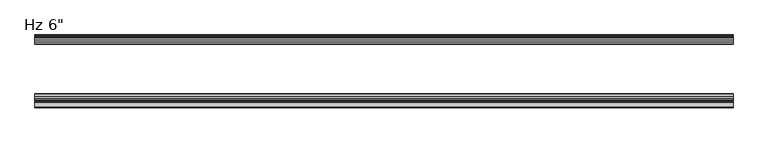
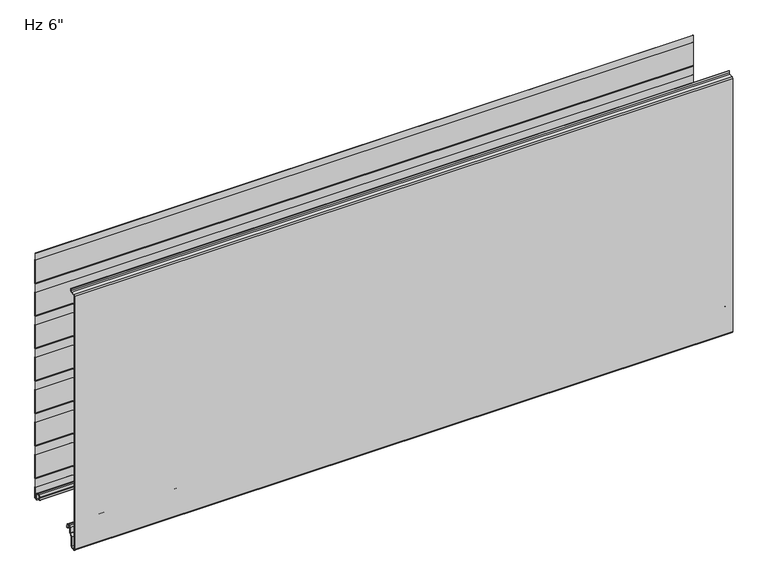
"""IFC4 building model written with IfcOpenShell, lengths in millimetres: plate geometry."""

from ifc_helpers import new_model, si_unit, point, frame, frame_2d, origin, place, context, project, spatial, polyline, circle_curve, trimmed, segment, composite_curve, outline, extrude, source, transform, mapped, element, save
from ifc_brep_helpers import plane_surface, cylinder_surface, revolved_surface, advanced_brep


def plate_c37062f1(model_context):
    return source(origin(), model_context, "Body", "SolidModel", [
        advanced_brep(
        [(-730.0, -17.0015368, 2.0313088), (-730.0, -18.00154, 1.0313116), (-730.0, -19.0015313, 2.0313088), (-730.0, -19.0015314, 6.0315125), (-730.0, -18.0015368, 6.0315125), (-730.0, -18.0015368, 8.7237223), (-730.0, -14.7015411, 12.023718), (-730.0, -10.3015499, 12.023718), (-730.0, -7.0015544, 8.7237225), (-730.0, -7.0015544, -1.6962564), (-730.0, -5.2315602, -3.4662506), (-730.0, -1.0000126, -3.4662506), (-730.0, -1.0000126, 21.034026), (-730.0, -2.2002516, 22.4196686), (-730.0, -2.2002516, 41.7948349), (-730.0, -1.0000209, 43.1804679), (-730.0, -1.0000209, 97.2338833), (-730.0, -2.2002516, 98.6195162), (-730.0, -2.2002516, 117.9946825), (-730.0, -1.0000209, 119.3803155), (-730.0, -1.0000209, 173.4337309), (-730.0, -2.2002516, 174.8193638), (-730.0, -2.2002516, 194.1945301), (-730.0, -1.0000209, 195.5801631), (-730.0, -1.0000209, 249.6335785), (-730.0, -2.2002516, 251.0192114), (-730.0, -2.2002516, 270.3943777), (-730.0, -1.0000209, 271.7800107), (-730.0, -1.0000209, 325.8334261), (-730.0, -2.2002516, 327.219059), (-730.0, -2.2002516, 346.5942253), (-730.0, -1.0000209, 347.9798583), (-730.0, -1.0000209, 402.0332737), (-730.0, -2.2002516, 403.4189066), (-730.0, -2.2002516, 422.7940729), (-730.0, -1.0000209, 424.1797059), (-730.0, -1.0000209, 478.2331213), (-730.0, -2.2002516, 479.6187542), (-730.0, -2.2002516, 498.9939205), (-730.0, -1.0000209, 500.3795535), (-730.0, -1.0000209, 554.4329689), (-730.0, -2.2002516, 555.8186018), (-730.0, -2.2002516, 571.2), (-730.0, -1.2002516, 571.2), (-730.0, -1.2002516, 556.1914823), (-730.0, -0.3418094, 555.2004346), (-730.0, -2.09e-05, 554.2838177), (-730.0, -2.09e-05, 500.5287046), (-730.0, -0.3418094, 499.6120877), (-730.0, -1.2002516, 498.6210401), (-730.0, -1.2002516, 479.9916347), (-730.0, -0.3418094, 479.000587), (-730.0, -2.09e-05, 478.0839701), (-730.0, -2.09e-05, 424.328857), (-730.0, -0.3418094, 423.4122401), (-730.0, -1.2002516, 422.4211925), (-730.0, -1.2002516, 403.7917871), (-730.0, -0.3418094, 402.8007394), (-730.0, -2.09e-05, 401.8841225), (-730.0, -2.09e-05, 348.1290094), (-730.0, -0.3418094, 347.2123925), (-730.0, -1.2002516, 346.2213449), (-730.0, -1.2002516, 327.5919395), (-730.0, -0.3418094, 326.6008918), (-730.0, -2.09e-05, 325.6842749), (-730.0, -2.09e-05, 271.9291618), (-730.0, -0.3418094, 271.0125449), (-730.0, -1.2002516, 270.0214973), (-730.0, -1.2002516, 251.3920919), (-730.0, -0.3418094, 250.4010442), (-730.0, -2.09e-05, 249.4844273), (-730.0, -2.09e-05, 195.7293142), (-730.0, -0.3418094, 194.8126973), (-730.0, -1.2002516, 193.8216497), (-730.0, -1.2002516, 175.1922443), (-730.0, -0.3418094, 174.2011966), (-730.0, -2.09e-05, 173.2845797), (-730.0, -2.09e-05, 119.5294666), (-730.0, -0.3418094, 118.6128497), (-730.0, -1.2002516, 117.6218021), (-730.0, -1.2002516, 98.9923967), (-730.0, -0.3418094, 98.001349), (-730.0, -2.09e-05, 97.0847321), (-730.0, -2.09e-05, 43.329619), (-730.0, -0.3418094, 42.4130021), (-730.0, -1.2002516, 41.4219545), (-730.0, -1.2002516, 22.7925491), (-730.0, -0.3418094, 21.8015014), (-730.0, -2.09e-05, 20.8847931), (-730.0, -1.26e-05, -3.0662545), (-730.0, -1.4000087, -4.4662506), (-730.0, -5.2315602, -4.4662506), (-730.0, -8.0015544, -1.6962564), (-730.0, -8.0015544, 8.7237225), (-730.0, -10.3015499, 11.023718), (-730.0, -14.7015411, 11.023718), (-730.0, -17.0015368, 8.7237223), (730.0, -17.0015368, 2.0313088), (730.0, -17.0015368, 8.7237223), (730.0, -14.7015411, 11.023718), (730.0, -10.3015499, 11.023718), (730.0, -8.0015544, 8.7237225), (730.0, -8.0015544, -1.6962564), (730.0, -5.2315602, -4.4662506), (730.0, -1.4000087, -4.4662506), (730.0, -1.26e-05, -3.0662545), (730.0, -1.26e-05, 20.8848845), (730.0, -0.3418094, 21.8015014), (730.0, -1.2002516, 22.7925491), (730.0, -1.2002516, 41.4219545), (730.0, -0.3418094, 42.4130021), (730.0, -2.09e-05, 43.329619), (730.0, -2.09e-05, 97.0847321), (730.0, -0.3418094, 98.001349), (730.0, -1.2002516, 98.9923967), (730.0, -1.2002516, 117.6218021), (730.0, -0.3418094, 118.6128497), (730.0, -2.09e-05, 119.5294666), (730.0, -2.09e-05, 173.2845797), (730.0, -0.3418094, 174.2011966), (730.0, -1.2002516, 175.1922443), (730.0, -1.2002516, 193.8216497), (730.0, -0.3418094, 194.8126973), (730.0, -2.09e-05, 195.7293142), (730.0, -2.09e-05, 249.4844273), (730.0, -0.3418094, 250.4010442), (730.0, -1.2002516, 251.3920919), (730.0, -1.2002516, 270.0214973), (730.0, -0.3418094, 271.0125449), (730.0, -2.09e-05, 271.9291618), (730.0, -2.09e-05, 325.6842749), (730.0, -0.3418094, 326.6008918), (730.0, -1.2002516, 327.5919395), (730.0, -1.2002516, 346.2213449), (730.0, -0.3418094, 347.2123925), (730.0, -2.09e-05, 348.1290094), (730.0, -2.09e-05, 401.8841225), (730.0, -0.3418094, 402.8007394), (730.0, -1.2002516, 403.7917871), (730.0, -1.2002516, 422.4211925), (730.0, -0.3418094, 423.4122401), (730.0, -2.09e-05, 424.328857), (730.0, -2.09e-05, 478.0839701), (730.0, -0.3418094, 479.000587), (730.0, -1.2002516, 479.9916347), (730.0, -1.2002516, 498.6210401), (730.0, -0.3418094, 499.6120877), (730.0, -2.09e-05, 500.5287046), (730.0, -2.09e-05, 554.2838177), (730.0, -0.3418094, 555.2004346), (730.0, -1.2002516, 556.1914823), (730.0, -1.2002516, 571.2), (730.0, -2.2002516, 571.2), (730.0, -2.2002516, 555.8186018), (730.0, -1.0000209, 554.4329689), (730.0, -1.0000209, 500.3795535), (730.0, -2.2002516, 498.9939205), (730.0, -2.2002516, 479.6187542), (730.0, -1.0000209, 478.2331213), (730.0, -1.0000209, 424.1797059), (730.0, -2.2002516, 422.7940729), (730.0, -2.2002516, 403.4189066), (730.0, -1.0000209, 402.0332737), (730.0, -1.0000209, 347.9798583), (730.0, -2.2002516, 346.5942253), (730.0, -2.2002516, 327.219059), (730.0, -1.0000209, 325.8334261), (730.0, -1.0000209, 271.7800107), (730.0, -2.2002516, 270.3943777), (730.0, -2.2002516, 251.0192114), (730.0, -1.0000209, 249.6335785), (730.0, -1.0000209, 195.5801631), (730.0, -2.2002516, 194.1945301), (730.0, -2.2002516, 174.8193638), (730.0, -1.0000209, 173.4337309), (730.0, -1.0000209, 119.3803155), (730.0, -2.2002516, 117.9946825), (730.0, -2.2002516, 98.6195162), (730.0, -1.0000209, 97.2338833), (730.0, -1.0000209, 43.1804679), (730.0, -2.2002516, 41.7948349), (730.0, -2.2002516, 22.4196686), (730.0, -1.0000126, 21.034026), (730.0, -1.0000126, -3.4662506), (730.0, -5.2315602, -3.4662506), (730.0, -7.0015544, -1.6962564), (730.0, -7.0015544, 8.7237225), (730.0, -10.3015499, 12.023718), (730.0, -14.7015411, 12.023718), (730.0, -18.0015368, 8.7237223), (730.0, -18.0015368, 6.0315125), (730.0, -19.0015314, 6.0315125), (730.0, -19.0015314, 2.0313088), (730.0, -18.00154, 1.0313116)],
        [
            (0, 1, circle_curve(frame((-730.0, -18.0015341, 2.0313088), z_axis=(-1.0, 0.0, 0.0), x_axis=(0.0, 0.0, 1.0)), 0.9999973)),
            (1, 2, circle_curve(frame((-730.0, -18.0015341, 2.0313088), z_axis=(-1.0, 0.0, 0.0), x_axis=(0.0, 0.0, 1.0)), 0.9999972)),
            (2, 3),
            (3, 4),
            (4, 5),
            (5, 6, circle_curve(frame((-730.0, -14.7015411, 8.7237223), z_axis=(-1.0, 0.0, 0.0), x_axis=(0.0, 0.0, 1.0)), 3.2999957)),
            (6, 7),
            (7, 8, circle_curve(frame((-730.0, -10.3015499, 8.7237225), z_axis=(-1.0, 0.0, 0.0), x_axis=(0.0, 0.0, 1.0)), 3.2999955)),
            (8, 9),
            (9, 10, circle_curve(frame((-730.0, -5.2315602, -1.6962564), z_axis=(1.0, 0.0, 0.0), x_axis=(0.0, 0.0, 1.0)), 1.7699942)),
            (10, 11),
            (11, 12),
            (12, 13),
            (13, 14),
            (14, 15),
            (15, 16),
            (16, 17),
            (17, 18),
            (18, 19),
            (19, 20),
            (20, 21),
            (21, 22),
            (22, 23),
            (23, 24),
            (24, 25),
            (25, 26),
            (26, 27),
            (27, 28),
            (28, 29),
            (29, 30),
            (30, 31),
            (31, 32),
            (32, 33),
            (33, 34),
            (34, 35),
            (35, 36),
            (36, 37),
            (37, 38),
            (38, 39),
            (39, 40),
            (40, 41),
            (41, 42),
            (42, 43),
            (43, 44),
            (44, 45),
            (45, 46, circle_curve(frame((-730.0, -1.4000181, 554.2838177), z_axis=(-1.0, 0.0, 0.0), x_axis=(0.0, 0.0, 1.0)), 1.3999972)),
            (46, 47),
            (47, 48, circle_curve(frame((-730.0, -1.4000181, 500.5287046), z_axis=(-1.0, 0.0, 0.0), x_axis=(0.0, 0.0, 1.0)), 1.3999972)),
            (48, 49),
            (49, 50),
            (50, 51),
            (51, 52, circle_curve(frame((-730.0, -1.4000181, 478.0839701), z_axis=(-1.0, 0.0, 0.0), x_axis=(0.0, 0.0, 1.0)), 1.3999972)),
            (52, 53),
            (53, 54, circle_curve(frame((-730.0, -1.4000181, 424.328857), z_axis=(-1.0, 0.0, 0.0), x_axis=(0.0, 0.0, 1.0)), 1.3999972)),
            (54, 55),
            (55, 56),
            (56, 57),
            (57, 58, circle_curve(frame((-730.0, -1.4000181, 401.8841225), z_axis=(-1.0, 0.0, 0.0), x_axis=(0.0, 0.0, 1.0)), 1.3999972)),
            (58, 59),
            (59, 60, circle_curve(frame((-730.0, -1.4000181, 348.1290094), z_axis=(-1.0, 0.0, 0.0), x_axis=(0.0, 0.0, 1.0)), 1.3999972)),
            (60, 61),
            (61, 62),
            (62, 63),
            (63, 64, circle_curve(frame((-730.0, -1.4000181, 325.6842749), z_axis=(-1.0, 0.0, 0.0), x_axis=(0.0, 0.0, 1.0)), 1.3999972)),
            (64, 65),
            (65, 66, circle_curve(frame((-730.0, -1.4000181, 271.9291618), z_axis=(-1.0, 0.0, 0.0), x_axis=(0.0, 0.0, 1.0)), 1.3999972)),
            (66, 67),
            (67, 68),
            (68, 69),
            (69, 70, circle_curve(frame((-730.0, -1.4000181, 249.4844273), z_axis=(-1.0, 0.0, 0.0), x_axis=(0.0, 0.0, 1.0)), 1.3999972)),
            (70, 71),
            (71, 72, circle_curve(frame((-730.0, -1.4000181, 195.7293142), z_axis=(-1.0, 0.0, 0.0), x_axis=(0.0, 0.0, 1.0)), 1.3999972)),
            (72, 73),
            (73, 74),
            (74, 75),
            (75, 76, circle_curve(frame((-730.0, -1.4000181, 173.2845797), z_axis=(-1.0, 0.0, 0.0), x_axis=(0.0, 0.0, 1.0)), 1.3999972)),
            (76, 77),
            (77, 78, circle_curve(frame((-730.0, -1.4000181, 119.5294666), z_axis=(-1.0, 0.0, 0.0), x_axis=(0.0, 0.0, 1.0)), 1.3999972)),
            (78, 79),
            (79, 80),
            (80, 81),
            (81, 82, circle_curve(frame((-730.0, -1.4000181, 97.0847321), z_axis=(-1.0, 0.0, 0.0), x_axis=(0.0, 0.0, 1.0)), 1.3999972)),
            (82, 83),
            (83, 84, circle_curve(frame((-730.0, -1.4000181, 43.329619), z_axis=(-1.0, 0.0, 0.0), x_axis=(0.0, 0.0, 1.0)), 1.3999972)),
            (84, 85),
            (85, 86),
            (86, 87),
            (87, 88, circle_curve(frame((-730.0, -1.4000181, 20.8848845), z_axis=(-1.0, 0.0, 0.0), x_axis=(0.0, 0.0, 1.0)), 1.3999972)),
            (88, 89),
            (89, 90, circle_curve(frame((-730.0, -1.4000087, -3.0662545), z_axis=(-1.0, 0.0, 0.0), x_axis=(0.0, 0.0, 1.0)), 1.3999962)),
            (90, 91),
            (91, 92, circle_curve(frame((-730.0, -5.2315602, -1.6962564), z_axis=(-1.0, 0.0, 0.0), x_axis=(0.0, 0.0, 1.0)), 2.7699942)),
            (92, 93),
            (93, 94, circle_curve(frame((-730.0, -10.3015499, 8.7237225), z_axis=(1.0, 0.0, 0.0), x_axis=(0.0, 0.0, 1.0)), 2.2999955)),
            (94, 95),
            (95, 96, circle_curve(frame((-730.0, -14.7015411, 8.7237223), z_axis=(1.0, 0.0, 0.0), x_axis=(0.0, 0.0, 1.0)), 2.2999957)),
            (96, 0),
            (97, 98),
            (98, 99, circle_curve(frame((730.0, -14.7015411, 8.7237223), z_axis=(-1.0, 0.0, 0.0), x_axis=(0.0, 0.0, 1.0)), 2.2999957)),
            (99, 100),
            (100, 101, circle_curve(frame((730.0, -10.3015499, 8.7237225), z_axis=(-1.0, 0.0, 0.0), x_axis=(0.0, 0.0, 1.0)), 2.2999955)),
            (101, 102),
            (102, 103, circle_curve(frame((730.0, -5.2315602, -1.6962564), z_axis=(1.0, 0.0, 0.0), x_axis=(0.0, 0.0, 1.0)), 2.7699942)),
            (103, 104),
            (104, 105, circle_curve(frame((730.0, -1.4000087, -3.0662545), z_axis=(1.0, 0.0, 0.0), x_axis=(0.0, 0.0, 1.0)), 1.3999962)),
            (105, 106),
            (106, 107, circle_curve(frame((730.0, -1.4000181, 20.8848845), z_axis=(1.0, 0.0, 0.0), x_axis=(0.0, 0.0, 1.0)), 1.3999972)),
            (107, 108),
            (108, 109),
            (109, 110),
            (110, 111, circle_curve(frame((730.0, -1.4000181, 43.329619), z_axis=(1.0, 0.0, 0.0), x_axis=(0.0, 0.0, 1.0)), 1.3999972)),
            (111, 112),
            (112, 113, circle_curve(frame((730.0, -1.4000181, 97.0847321), z_axis=(1.0, 0.0, 0.0), x_axis=(0.0, 0.0, 1.0)), 1.3999972)),
            (113, 114),
            (114, 115),
            (115, 116),
            (116, 117, circle_curve(frame((730.0, -1.4000181, 119.5294666), z_axis=(1.0, 0.0, 0.0), x_axis=(0.0, 0.0, 1.0)), 1.3999972)),
            (117, 118),
            (118, 119, circle_curve(frame((730.0, -1.4000181, 173.2845797), z_axis=(1.0, 0.0, 0.0), x_axis=(0.0, 0.0, 1.0)), 1.3999972)),
            (119, 120),
            (120, 121),
            (121, 122),
            (122, 123, circle_curve(frame((730.0, -1.4000181, 195.7293142), z_axis=(1.0, 0.0, 0.0), x_axis=(0.0, 0.0, 1.0)), 1.3999972)),
            (123, 124),
            (124, 125, circle_curve(frame((730.0, -1.4000181, 249.4844273), z_axis=(1.0, 0.0, 0.0), x_axis=(0.0, 0.0, 1.0)), 1.3999972)),
            (125, 126),
            (126, 127),
            (127, 128),
            (128, 129, circle_curve(frame((730.0, -1.4000181, 271.9291618), z_axis=(1.0, 0.0, 0.0), x_axis=(0.0, 0.0, 1.0)), 1.3999972)),
            (129, 130),
            (130, 131, circle_curve(frame((730.0, -1.4000181, 325.6842749), z_axis=(1.0, 0.0, 0.0), x_axis=(0.0, 0.0, 1.0)), 1.3999972)),
            (131, 132),
            (132, 133),
            (133, 134),
            (134, 135, circle_curve(frame((730.0, -1.4000181, 348.1290094), z_axis=(1.0, 0.0, 0.0), x_axis=(0.0, 0.0, 1.0)), 1.3999972)),
            (135, 136),
            (136, 137, circle_curve(frame((730.0, -1.4000181, 401.8841225), z_axis=(1.0, 0.0, 0.0), x_axis=(0.0, 0.0, 1.0)), 1.3999972)),
            (137, 138),
            (138, 139),
            (139, 140),
            (140, 141, circle_curve(frame((730.0, -1.4000181, 424.328857), z_axis=(1.0, 0.0, 0.0), x_axis=(0.0, 0.0, 1.0)), 1.3999972)),
            (141, 142),
            (142, 143, circle_curve(frame((730.0, -1.4000181, 478.0839701), z_axis=(1.0, 0.0, 0.0), x_axis=(0.0, 0.0, 1.0)), 1.3999972)),
            (143, 144),
            (144, 145),
            (145, 146),
            (146, 147, circle_curve(frame((730.0, -1.4000181, 500.5287046), z_axis=(1.0, 0.0, 0.0), x_axis=(0.0, 0.0, 1.0)), 1.3999972)),
            (147, 148),
            (148, 149, circle_curve(frame((730.0, -1.4000181, 554.2838177), z_axis=(1.0, 0.0, 0.0), x_axis=(0.0, 0.0, 1.0)), 1.3999972)),
            (149, 150),
            (150, 151),
            (151, 152),
            (152, 153),
            (153, 154),
            (154, 155),
            (155, 156),
            (156, 157),
            (157, 158),
            (158, 159),
            (159, 160),
            (160, 161),
            (161, 162),
            (162, 163),
            (163, 164),
            (164, 165),
            (165, 166),
            (166, 167),
            (167, 168),
            (168, 169),
            (169, 170),
            (170, 171),
            (171, 172),
            (172, 173),
            (173, 174),
            (174, 175),
            (175, 176),
            (176, 177),
            (177, 178),
            (178, 179),
            (179, 180),
            (180, 181),
            (181, 182),
            (182, 183),
            (183, 184),
            (184, 185, circle_curve(frame((730.0, -5.2315602, -1.6962564), z_axis=(-1.0, 0.0, 0.0), x_axis=(0.0, 0.0, 1.0)), 1.7699942)),
            (185, 186),
            (186, 187, circle_curve(frame((730.0, -10.3015499, 8.7237225), z_axis=(1.0, 0.0, 0.0), x_axis=(0.0, 0.0, 1.0)), 3.2999955)),
            (187, 188),
            (188, 189, circle_curve(frame((730.0, -14.7015411, 8.7237223), z_axis=(1.0, 0.0, 0.0), x_axis=(0.0, 0.0, 1.0)), 3.2999957)),
            (189, 190),
            (190, 191),
            (191, 192),
            (192, 193, circle_curve(frame((730.0, -18.0015341, 2.0313088), z_axis=(1.0, 0.0, 0.0), x_axis=(0.0, 0.0, 1.0)), 0.9999972)),
            (193, 97, circle_curve(frame((730.0, -18.0015341, 2.0313088), z_axis=(1.0, 0.0, 0.0), x_axis=(0.0, 0.0, 1.0)), 0.9999973)),
            (96, 98),
            (97, 0),
            (95, 99),
            (94, 100),
            (93, 101),
            (92, 102),
            (91, 103),
            (90, 104),
            (89, 105),
            (88, 106),
            (70, 124),
            (123, 71),
            (87, 107),
            (86, 108),
            (85, 109),
            (83, 111),
            (110, 84),
            (81, 113),
            (112, 82),
            (66, 128),
            (127, 67),
            (122, 72),
            (121, 73),
            (76, 118),
            (117, 77),
            (69, 125),
            (68, 126),
            (65, 129),
            (116, 78),
            (79, 115),
            (114, 80),
            (75, 119),
            (74, 120),
            (2, 192),
            (191, 3),
            (1, 193),
            (64, 130),
            (63, 131),
            (62, 132),
            (61, 133),
            (60, 134),
            (59, 135),
            (58, 136),
            (31, 163),
            (162, 32),
            (30, 164),
            (29, 165),
            (28, 166),
            (27, 167),
            (26, 168),
            (25, 169),
            (24, 170),
            (23, 171),
            (22, 172),
            (21, 173),
            (20, 174),
            (19, 175),
            (18, 176),
            (17, 177),
            (16, 178),
            (15, 179),
            (14, 180),
            (13, 181),
            (12, 182),
            (11, 183),
            (10, 184),
            (9, 185),
            (8, 186),
            (7, 187),
            (6, 188),
            (5, 189),
            (4, 190),
            (42, 152),
            (151, 43),
            (57, 137),
            (56, 138),
            (55, 139),
            (54, 140),
            (53, 141),
            (52, 142),
            (51, 143),
            (50, 144),
            (49, 145),
            (48, 146),
            (47, 147),
            (46, 148),
            (45, 149),
            (44, 150),
            (41, 153),
            (40, 154),
            (39, 155),
            (38, 156),
            (37, 157),
            (36, 158),
            (35, 159),
            (34, 160),
            (33, 161),
        ],
        [
            plane_surface(frame((-730.0, -2.09e-05, 304.8), z_axis=(-1.0, 0.0, 0.0), x_axis=(0.0, 1.0, 0.0))),
            plane_surface(frame((730.0, -2.09e-05, 304.8), z_axis=(1.0, 0.0, 0.0), x_axis=(0.0, 1.0, 0.0))),
            plane_surface(frame((-730.0, -17.0015368, 2.0313088), z_axis=(0.0, 1.0, 0.0), x_axis=(1.0, 0.0, 0.0))),
            revolved_surface(polyline([(730.0, -14.7015411, 11.023718), (-730.0, -14.7015411, 11.023718)]), (-730.0, -14.7015411, 8.7237223), (1.0, 0.0, 0.0)),
            plane_surface(frame((-730.0, -14.7015411, 11.023718), z_axis=(0.0, 0.0, -1.0), x_axis=(1.0, 0.0, 0.0))),
            revolved_surface(polyline([(730.0, -10.3015499, 11.023717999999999), (-730.0, -10.3015499, 11.023717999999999)]), (-730.0, -10.3015499, 8.7237225), (1.0, 0.0, 0.0)),
            plane_surface(frame((-730.0, -8.0015544, 8.7237225), z_axis=(0.0, -1.0, 0.0), x_axis=(1.0, 0.0, 0.0))),
            cylinder_surface(frame((-730.0, -5.2315602, -1.6962564), z_axis=(-1.0, 0.0, 0.0), x_axis=(0.0, 0.0, 1.0)), 2.7699942),
            plane_surface(frame((-730.0, -5.2315602, -4.4662506), z_axis=(0.0, 0.0, -1.0), x_axis=(1.0, 0.0, 0.0))),
            cylinder_surface(frame((-730.0, -1.4000087, -3.0662545), z_axis=(-1.0, 0.0, 0.0), x_axis=(0.0, 0.0, 1.0)), 1.3999962),
            plane_surface(frame((-730.0, -1.26e-05, -3.0662545), z_axis=(0.0, 1.0, 0.0), x_axis=(1.0, 0.0, 0.0))),
            plane_surface(frame((-730.0, -2.09e-05, 195.7293142), z_axis=(0.0, 1.0, 0.0), x_axis=(1.0, 0.0, 0.0))),
            cylinder_surface(frame((-730.0, -1.4000181, 20.8848845), z_axis=(-1.0, 0.0, 0.0), x_axis=(0.0, 0.0, 1.0)), 1.3999972),
            plane_surface(frame((-730.0, -0.3418094, 21.8015014), z_axis=(0.0, 0.755864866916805, 0.6547276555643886), x_axis=(1.0, 0.0, 0.0))),
            plane_surface(frame((-730.0, -1.2002516, 32.1072518), z_axis=(0.0, 1.0, 0.0), x_axis=(1.0, 0.0, 0.0))),
            cylinder_surface(frame((-730.0, -1.4000181, 43.329619), z_axis=(-1.0, 0.0, 0.0), x_axis=(0.0, 0.0, 1.0)), 1.3999972),
            plane_surface(frame((-730.0, -1.2002516, 41.4219545), z_axis=(0.0, 0.755864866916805, -0.6547276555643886), x_axis=(1.0, 0.0, 0.0))),
            cylinder_surface(frame((-730.0, -1.4000181, 97.0847321), z_axis=(-1.0, 0.0, 0.0), x_axis=(0.0, 0.0, 1.0)), 1.3999972),
            plane_surface(frame((-730.0, -1.2002516, 270.0214973), z_axis=(0.0, 0.755864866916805, -0.6547276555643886), x_axis=(1.0, 0.0, 0.0))),
            cylinder_surface(frame((-730.0, -1.4000181, 195.7293142), z_axis=(-1.0, 0.0, 0.0), x_axis=(0.0, 0.0, 1.0)), 1.3999972),
            plane_surface(frame((-730.0, -1.2002516, 193.8216497), z_axis=(0.0, 0.755864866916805, -0.6547276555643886), x_axis=(1.0, 0.0, 0.0))),
            plane_surface(frame((-730.0, -2.09e-05, 119.5294666), z_axis=(0.0, 1.0, 0.0), x_axis=(1.0, 0.0, 0.0))),
            cylinder_surface(frame((-730.0, -1.4000181, 249.4844273), z_axis=(-1.0, 0.0, 0.0), x_axis=(0.0, 0.0, 1.0)), 1.3999972),
            plane_surface(frame((-730.0, -0.3418094, 250.4010442), z_axis=(0.0, 0.755864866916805, 0.6547276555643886), x_axis=(1.0, 0.0, 0.0))),
            plane_surface(frame((-730.0, -1.2002516, 260.7067946), z_axis=(0.0, 1.0, 0.0), x_axis=(1.0, 0.0, 0.0))),
            cylinder_surface(frame((-730.0, -1.4000181, 271.9291618), z_axis=(-1.0, 0.0, 0.0), x_axis=(0.0, 0.0, 1.0)), 1.3999972),
            cylinder_surface(frame((-730.0, -1.4000181, 119.5294666), z_axis=(-1.0, 0.0, 0.0), x_axis=(0.0, 0.0, 1.0)), 1.3999972),
            plane_surface(frame((-730.0, -1.2002516, 108.3070994), z_axis=(0.0, 1.0, 0.0), x_axis=(1.0, 0.0, 0.0))),
            plane_surface(frame((-730.0, -0.3418094, 98.001349), z_axis=(0.0, 0.755864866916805, 0.6547276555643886), x_axis=(1.0, 0.0, 0.0))),
            plane_surface(frame((-730.0, -1.2002516, 117.6218021), z_axis=(0.0, 0.755864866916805, -0.6547276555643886), x_axis=(1.0, 0.0, 0.0))),
            plane_surface(frame((-730.0, -2.09e-05, 43.329619), z_axis=(0.0, 1.0, 0.0), x_axis=(1.0, 0.0, 0.0))),
            cylinder_surface(frame((-730.0, -1.4000181, 173.2845797), z_axis=(-1.0, 0.0, 0.0), x_axis=(0.0, 0.0, 1.0)), 1.3999972),
            plane_surface(frame((-730.0, -0.3418094, 174.2011966), z_axis=(0.0, 0.755864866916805, 0.6547276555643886), x_axis=(1.0, 0.0, 0.0))),
            plane_surface(frame((-730.0, -1.2002516, 184.506947), z_axis=(0.0, 1.0, 0.0), x_axis=(1.0, 0.0, 0.0))),
            plane_surface(frame((-730.0, -19.0015314, 6.0315125), z_axis=(0.0, -1.0, 0.0), x_axis=(1.0, 0.0, 0.0))),
            cylinder_surface(frame((-730.0, -18.0015341, 2.0313088), z_axis=(-1.0, 0.0, 0.0), x_axis=(0.0, 0.0, 1.0)), 0.9999972),
            cylinder_surface(frame((-730.0, -18.0015341, 2.0313088), z_axis=(-1.0, 0.0, 0.0), x_axis=(0.0, 0.0, 1.0)), 0.9999973),
            plane_surface(frame((-730.0, -2.09e-05, 271.9291618), z_axis=(0.0, 1.0, 0.0), x_axis=(1.0, 0.0, 0.0))),
            cylinder_surface(frame((-730.0, -1.4000181, 325.6842749), z_axis=(-1.0, 0.0, 0.0), x_axis=(0.0, 0.0, 1.0)), 1.3999972),
            plane_surface(frame((-730.0, -0.3418094, 326.6008918), z_axis=(0.0, 0.755864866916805, 0.6547276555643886), x_axis=(1.0, 0.0, 0.0))),
            plane_surface(frame((-730.0, -1.2002516, 336.9066422), z_axis=(0.0, 1.0, 0.0), x_axis=(1.0, 0.0, 0.0))),
            plane_surface(frame((-730.0, -1.2002516, 346.2213449), z_axis=(0.0, 0.755864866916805, -0.6547276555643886), x_axis=(1.0, 0.0, 0.0))),
            cylinder_surface(frame((-730.0, -1.4000181, 348.1290094), z_axis=(-1.0, 0.0, 0.0), x_axis=(0.0, 0.0, 1.0)), 1.3999972),
            plane_surface(frame((-730.0, -2.09e-05, 348.1290094), z_axis=(0.0, 1.0, 0.0), x_axis=(1.0, 0.0, 0.0))),
            plane_surface(frame((-730.0, -1.0000209, 402.0332737), z_axis=(0.0, -1.0, 0.0), x_axis=(1.0, 0.0, 0.0))),
            plane_surface(frame((-730.0, -1.0000209, 347.9798583), z_axis=(0.0, -0.755864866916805, 0.6547276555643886), x_axis=(1.0, 0.0, 0.0))),
            plane_surface(frame((-730.0, -2.2002516, 346.5942253), z_axis=(0.0, -1.0, 0.0), x_axis=(1.0, 0.0, 0.0))),
            plane_surface(frame((-730.0, -2.2002516, 327.219059), z_axis=(0.0, -0.755864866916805, -0.6547276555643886), x_axis=(1.0, 0.0, 0.0))),
            plane_surface(frame((-730.0, -1.0000209, 325.8334261), z_axis=(0.0, -1.0, 0.0), x_axis=(1.0, 0.0, 0.0))),
            plane_surface(frame((-730.0, -1.0000209, 271.7800107), z_axis=(0.0, -0.755864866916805, 0.6547276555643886), x_axis=(1.0, 0.0, 0.0))),
            plane_surface(frame((-730.0, -2.2002516, 270.3943777), z_axis=(0.0, -1.0, 0.0), x_axis=(1.0, 0.0, 0.0))),
            plane_surface(frame((-730.0, -2.2002516, 251.0192114), z_axis=(0.0, -0.755864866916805, -0.6547276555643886), x_axis=(1.0, 0.0, 0.0))),
            plane_surface(frame((-730.0, -1.0000209, 249.6335785), z_axis=(0.0, -1.0, 0.0), x_axis=(1.0, 0.0, 0.0))),
            plane_surface(frame((-730.0, -1.0000209, 195.5801631), z_axis=(0.0, -0.755864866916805, 0.6547276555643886), x_axis=(1.0, 0.0, 0.0))),
            plane_surface(frame((-730.0, -2.2002516, 194.1945301), z_axis=(0.0, -1.0, 0.0), x_axis=(1.0, 0.0, 0.0))),
            plane_surface(frame((-730.0, -2.2002516, 174.8193638), z_axis=(0.0, -0.755864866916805, -0.6547276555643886), x_axis=(1.0, 0.0, 0.0))),
            plane_surface(frame((-730.0, -1.0000209, 173.4337309), z_axis=(0.0, -1.0, 0.0), x_axis=(1.0, 0.0, 0.0))),
            plane_surface(frame((-730.0, -1.0000209, 119.3803155), z_axis=(0.0, -0.755864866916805, 0.6547276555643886), x_axis=(1.0, 0.0, 0.0))),
            plane_surface(frame((-730.0, -2.2002516, 117.9946825), z_axis=(0.0, -1.0, 0.0), x_axis=(1.0, 0.0, 0.0))),
            plane_surface(frame((-730.0, -2.2002516, 98.6195162), z_axis=(0.0, -0.755864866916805, -0.6547276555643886), x_axis=(1.0, 0.0, 0.0))),
            plane_surface(frame((-730.0, -1.0000209, 97.2338833), z_axis=(0.0, -1.0, 0.0), x_axis=(1.0, 0.0, 0.0))),
            plane_surface(frame((-730.0, -1.0000209, 43.1804679), z_axis=(0.0, -0.755864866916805, 0.6547276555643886), x_axis=(1.0, 0.0, 0.0))),
            plane_surface(frame((-730.0, -2.2002516, 41.7948349), z_axis=(0.0, -1.0, 0.0), x_axis=(1.0, 0.0, 0.0))),
            plane_surface(frame((-730.0, -2.2002516, 22.4196686), z_axis=(0.0, -0.755864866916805, -0.6547276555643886), x_axis=(1.0, 0.0, 0.0))),
            plane_surface(frame((-730.0, -1.0000126, 21.034026), z_axis=(0.0, -1.0, 0.0), x_axis=(1.0, 0.0, 0.0))),
            plane_surface(frame((-730.0, -1.0000126, -3.4662506), z_axis=(0.0, 0.0, 1.0), x_axis=(1.0, 0.0, 0.0))),
            revolved_surface(polyline([(730.0, -5.2315602, 0.07373779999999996), (-730.0, -5.2315602, 0.07373779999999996)]), (-730.0, -5.2315602, -1.6962564), (1.0, 0.0, 0.0)),
            plane_surface(frame((-730.0, -7.0015544, -1.6962564), z_axis=(0.0, 1.0, 0.0), x_axis=(1.0, 0.0, 0.0))),
            cylinder_surface(frame((-730.0, -10.3015499, 8.7237225), z_axis=(-1.0, 0.0, 0.0), x_axis=(0.0, 0.0, 1.0)), 3.2999955),
            plane_surface(frame((-730.0, -10.3015499, 12.023718), z_axis=(0.0, 0.0, 1.0), x_axis=(1.0, 0.0, 0.0))),
            cylinder_surface(frame((-730.0, -14.7015411, 8.7237223), z_axis=(-1.0, 0.0, 0.0), x_axis=(0.0, 0.0, 1.0)), 3.2999957),
            plane_surface(frame((-730.0, -18.0015368, 8.7237223), z_axis=(0.0, -1.0, 0.0), x_axis=(1.0, 0.0, 0.0))),
            plane_surface(frame((-730.0, -18.0015368, 6.0315125), z_axis=(0.0, 0.0, 1.0), x_axis=(1.0, 0.0, 0.0))),
            plane_surface(frame((730.0, 9.9999791, 571.2), z_axis=(0.0, 0.0, 1.0), x_axis=(-1.0, 0.0, 0.0))),
            cylinder_surface(frame((-730.0, -1.4000181, 401.8841225), z_axis=(-1.0, 0.0, 0.0), x_axis=(0.0, 0.0, 1.0)), 1.3999972),
            plane_surface(frame((-730.0, -0.3418094, 402.8007394), z_axis=(0.0, 0.755864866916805, 0.6547276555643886), x_axis=(1.0, 0.0, 0.0))),
            plane_surface(frame((-730.0, -1.2002516, 413.1064898), z_axis=(0.0, 1.0, 0.0), x_axis=(1.0, 0.0, 0.0))),
            plane_surface(frame((-730.0, -1.2002516, 422.4211925), z_axis=(0.0, 0.755864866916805, -0.6547276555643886), x_axis=(1.0, 0.0, 0.0))),
            cylinder_surface(frame((-730.0, -1.4000181, 424.328857), z_axis=(-1.0, 0.0, 0.0), x_axis=(0.0, 0.0, 1.0)), 1.3999972),
            plane_surface(frame((-730.0, -2.09e-05, 424.328857), z_axis=(0.0, 1.0, 0.0), x_axis=(1.0, 0.0, 0.0))),
            cylinder_surface(frame((-730.0, -1.4000181, 478.0839701), z_axis=(-1.0, 0.0, 0.0), x_axis=(0.0, 0.0, 1.0)), 1.3999972),
            plane_surface(frame((-730.0, -0.3418094, 479.000587), z_axis=(0.0, 0.755864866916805, 0.6547276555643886), x_axis=(1.0, 0.0, 0.0))),
            plane_surface(frame((-730.0, -1.2002516, 489.3063374), z_axis=(0.0, 1.0, 0.0), x_axis=(1.0, 0.0, 0.0))),
            plane_surface(frame((-730.0, -1.2002516, 498.6210401), z_axis=(0.0, 0.755864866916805, -0.6547276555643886), x_axis=(1.0, 0.0, 0.0))),
            cylinder_surface(frame((-730.0, -1.4000181, 500.5287046), z_axis=(-1.0, 0.0, 0.0), x_axis=(0.0, 0.0, 1.0)), 1.3999972),
            plane_surface(frame((-730.0, -2.09e-05, 500.5287046), z_axis=(0.0, 1.0, 0.0), x_axis=(1.0, 0.0, 0.0))),
            cylinder_surface(frame((-730.0, -1.4000181, 554.2838177), z_axis=(-1.0, 0.0, 0.0), x_axis=(0.0, 0.0, 1.0)), 1.3999972),
            plane_surface(frame((-730.0, -0.3418094, 555.2004346), z_axis=(0.0, 0.755864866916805, 0.6547276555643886), x_axis=(1.0, 0.0, 0.0))),
            plane_surface(frame((-730.0, -1.2002516, 565.506185), z_axis=(0.0, 1.0, 0.0), x_axis=(1.0, 0.0, 0.0))),
            plane_surface(frame((-730.0, -2.2002516, 575.1937681), z_axis=(0.0, -1.0, 0.0), x_axis=(1.0, 0.0, 0.0))),
            plane_surface(frame((-730.0, -2.2002516, 555.8186018), z_axis=(0.0, -0.755864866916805, -0.6547276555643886), x_axis=(1.0, 0.0, 0.0))),
            plane_surface(frame((-730.0, -1.0000209, 554.4329689), z_axis=(0.0, -1.0, 0.0), x_axis=(1.0, 0.0, 0.0))),
            plane_surface(frame((-730.0, -1.0000209, 500.3795535), z_axis=(0.0, -0.755864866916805, 0.6547276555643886), x_axis=(1.0, 0.0, 0.0))),
            plane_surface(frame((-730.0, -2.2002516, 498.9939205), z_axis=(0.0, -1.0, 0.0), x_axis=(1.0, 0.0, 0.0))),
            plane_surface(frame((-730.0, -2.2002516, 479.6187542), z_axis=(0.0, -0.755864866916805, -0.6547276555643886), x_axis=(1.0, 0.0, 0.0))),
            plane_surface(frame((-730.0, -1.0000209, 478.2331213), z_axis=(0.0, -1.0, 0.0), x_axis=(1.0, 0.0, 0.0))),
            plane_surface(frame((-730.0, -1.0000209, 424.1797059), z_axis=(0.0, -0.755864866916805, 0.6547276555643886), x_axis=(1.0, 0.0, 0.0))),
            plane_surface(frame((-730.0, -2.2002516, 422.7940729), z_axis=(0.0, -1.0, 0.0), x_axis=(1.0, 0.0, 0.0))),
            plane_surface(frame((-730.0, -2.2002516, 403.4189066), z_axis=(0.0, -0.755864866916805, -0.6547276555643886), x_axis=(1.0, 0.0, 0.0))),
        ],
        [
            (0, [[1, 2, 3, 4, 5, 6, 7, 8, 9, 10, 11, 12, 13, 14, 15, 16, 17, 18, 19, 20, 21, 22, 23, 24, 25, 26, 27, 28, 29, 30, 31, 32, 33, 34, 35, 36, 37, 38, 39, 40, 41, 42, 43, 44, 45, 46, 47, 48, 49, 50, 51, 52, 53, 54, 55, 56, 57, 58, 59, 60, 61, 62, 63, 64, 65, 66, 67, 68, 69, 70, 71, 72, 73, 74, 75, 76, 77, 78, 79, 80, 81, 82, 83, 84, 85, 86, 87, 88, 89, 90, 91, 92, 93, 94, 95, 96, 97]]),
            (1, [[98, 99, 100, 101, 102, 103, 104, 105, 106, 107, 108, 109, 110, 111, 112, 113, 114, 115, 116, 117, 118, 119, 120, 121, 122, 123, 124, 125, 126, 127, 128, 129, 130, 131, 132, 133, 134, 135, 136, 137, 138, 139, 140, 141, 142, 143, 144, 145, 146, 147, 148, 149, 150, 151, 152, 153, 154, 155, 156, 157, 158, 159, 160, 161, 162, 163, 164, 165, 166, 167, 168, 169, 170, 171, 172, 173, 174, 175, 176, 177, 178, 179, 180, 181, 182, 183, 184, 185, 186, 187, 188, 189, 190, 191, 192, 193, 194]]),
            (2, [[195, -98, 196, -97]]),
            (3, [[197, -99, -195, -96]]),
            (4, [[198, -100, -197, -95]]),
            (5, [[199, -101, -198, -94]]),
            (6, [[200, -102, -199, -93]]),
            (7, [[201, -103, -200, -92]]),
            (8, [[202, -104, -201, -91]]),
            (9, [[203, -105, -202, -90]]),
            (10, [[204, -106, -203, -89]]),
            (11, [[205, -124, 206, -71]]),
            (12, [[207, -107, -204, -88]]),
            (13, [[208, -108, -207, -87]]),
            (14, [[209, -109, -208, -86]]),
            (15, [[210, -111, 211, -84]]),
            (16, [[-211, -110, -209, -85]]),
            (17, [[212, -113, 213, -82]]),
            (18, [[214, -128, 215, -67]]),
            (19, [[-206, -123, 216, -72]]),
            (20, [[-216, -122, 217, -73]]),
            (21, [[218, -118, 219, -77]]),
            (22, [[220, -125, -205, -70]]),
            (23, [[221, -126, -220, -69]]),
            (24, [[-215, -127, -221, -68]]),
            (25, [[222, -129, -214, -66]]),
            (26, [[-219, -117, 223, -78]]),
            (27, [[224, -115, 225, -80]]),
            (28, [[-225, -114, -212, -81]]),
            (29, [[-223, -116, -224, -79]]),
            (30, [[-213, -112, -210, -83]]),
            (31, [[226, -119, -218, -76]]),
            (32, [[227, -120, -226, -75]]),
            (33, [[-217, -121, -227, -74]]),
            (34, [[228, -192, 229, -3]]),
            (35, [[230, -193, -228, -2]]),
            (36, [[-196, -194, -230, -1]]),
            (37, [[231, -130, -222, -65]]),
            (38, [[232, -131, -231, -64]]),
            (39, [[233, -132, -232, -63]]),
            (40, [[234, -133, -233, -62]]),
            (41, [[235, -134, -234, -61]]),
            (42, [[236, -135, -235, -60]]),
            (43, [[237, -136, -236, -59]]),
            (44, [[238, -163, 239, -32]]),
            (45, [[240, -164, -238, -31]]),
            (46, [[241, -165, -240, -30]]),
            (47, [[242, -166, -241, -29]]),
            (48, [[243, -167, -242, -28]]),
            (49, [[244, -168, -243, -27]]),
            (50, [[245, -169, -244, -26]]),
            (51, [[246, -170, -245, -25]]),
            (52, [[247, -171, -246, -24]]),
            (53, [[248, -172, -247, -23]]),
            (54, [[249, -173, -248, -22]]),
            (55, [[250, -174, -249, -21]]),
            (56, [[251, -175, -250, -20]]),
            (57, [[252, -176, -251, -19]]),
            (58, [[253, -177, -252, -18]]),
            (59, [[254, -178, -253, -17]]),
            (60, [[255, -179, -254, -16]]),
            (61, [[256, -180, -255, -15]]),
            (62, [[257, -181, -256, -14]]),
            (63, [[258, -182, -257, -13]]),
            (64, [[259, -183, -258, -12]]),
            (65, [[260, -184, -259, -11]]),
            (66, [[261, -185, -260, -10]]),
            (67, [[262, -186, -261, -9]]),
            (68, [[263, -187, -262, -8]]),
            (69, [[264, -188, -263, -7]]),
            (70, [[265, -189, -264, -6]]),
            (71, [[266, -190, -265, -5]]),
            (72, [[-229, -191, -266, -4]]),
            (73, [[267, -152, 268, -43]]),
            (74, [[269, -137, -237, -58]]),
            (75, [[270, -138, -269, -57]]),
            (76, [[271, -139, -270, -56]]),
            (77, [[272, -140, -271, -55]]),
            (78, [[273, -141, -272, -54]]),
            (79, [[274, -142, -273, -53]]),
            (80, [[275, -143, -274, -52]]),
            (81, [[276, -144, -275, -51]]),
            (82, [[277, -145, -276, -50]]),
            (83, [[278, -146, -277, -49]]),
            (84, [[279, -147, -278, -48]]),
            (85, [[280, -148, -279, -47]]),
            (86, [[281, -149, -280, -46]]),
            (87, [[282, -150, -281, -45]]),
            (88, [[-44, -268, -151, -282]]),
            (89, [[-153, -267, -42, 283]]),
            (90, [[284, -154, -283, -41]]),
            (91, [[285, -155, -284, -40]]),
            (92, [[286, -156, -285, -39]]),
            (93, [[287, -157, -286, -38]]),
            (94, [[288, -158, -287, -37]]),
            (95, [[289, -159, -288, -36]]),
            (96, [[290, -160, -289, -35]]),
            (97, [[291, -161, -290, -34]]),
            (98, [[-239, -162, -291, -33]]),
        ],
    ),
        extrude(outline(composite_curve([segment(trimmed(circle_curve(frame_2d((-148.8296517, -32.4521063)), 3.5702393), [point((-148.5183813, -36.0087507))], [point((-152.399891, -32.452104))], False, "CARTESIAN"), True, "CONTINUOUS"), segment(polyline([(-152.399891, -32.452104), (-152.3995114, 561.1384265)]), True, "CONTINUOUS"), segment(trimmed(circle_curve(frame_2d((-149.4495173, 561.1384246)), 2.9499941), [point((-152.3995114, 561.1384265))], [point((-149.7066263, 564.0771931))], False, "CARTESIAN"), True, "CONTINUOUS"), segment(polyline([(-149.7066263, 564.0771931), (-141.2421999, 564.8177344)]), True, "CONTINUOUS"), segment(trimmed(circle_curve(frame_2d((-141.4191257, 566.8400056)), 2.0299959), [point((-141.2421999, 564.8177344))], [point((-139.3917398, 566.9429135))], True, "CARTESIAN"), True, "CONTINUOUS"), segment(polyline([(-139.3917398, 566.9429135), (-139.3917398, 571.2), (-138.3917398, 571.2), (-138.3917398, 566.9657441)]), True, "CONTINUOUS"), segment(trimmed(circle_curve(frame_2d((-141.4191257, 566.8400056)), 3.0299959), [point((-138.3917398, 566.9657441))], [point((-141.1550441, 563.8215397))], False, "CARTESIAN"), True, "CONTINUOUS"), segment(polyline([(-141.1550441, 563.8215397), (-149.6193406, 563.0810097)]), True, "CONTINUOUS"), segment(trimmed(circle_curve(frame_2d((-149.4493874, 561.1384359)), 1.9499941), [point((-149.6193406, 563.0810097))], [point((-151.3993815, 561.1384359))], True, "CARTESIAN"), True, "CONTINUOUS"), segment(polyline([(-151.3993815, 561.1384359), (-151.3993815, -32.509446)]), True, "CONTINUOUS"), segment(trimmed(circle_curve(frame_2d((-148.8297816, -32.4521176)), 2.5702393), [point((-151.3993815, -32.509446))], [point((-148.605696, -35.0125699))], True, "CARTESIAN"), True, "CONTINUOUS"), segment(polyline([(-148.605696, -35.0125699), (-143.6238751, -34.5765709)]), True, "CONTINUOUS"), segment(trimmed(circle_curve(frame_2d((-144.1052657, -31.9198392)), 2.6999926), [point((-143.6238751, -34.5765709))], [point((-141.4052731, -31.9198392))], True, "CARTESIAN"), True, "CONTINUOUS"), segment(polyline([(-141.4052731, -31.9198392), (-141.4052731, -9.8247096), (-135.903202, -4.3226385)]), True, "CONTINUOUS"), segment(trimmed(circle_curve(frame_2d((-137.1052797, -3.1205608)), 1.6999946), [point((-135.903202, -4.3226385))], [point((-135.4052851, -3.1205608))], True, "CARTESIAN"), True, "CONTINUOUS"), segment(polyline([(-135.4052851, -3.1205608), (-135.4052851, 8.6903283)]), True, "CONTINUOUS"), segment(trimmed(circle_curve(frame_2d((-132.0552898, 8.6903283)), 3.3499953), [point((-135.4052851, 8.6903283))], [point((-132.0552898, 12.0403236))], False, "CARTESIAN"), True, "CONTINUOUS"), segment(polyline([(-132.0552898, 12.0403236), (-127.6552986, 12.0403236)]), True, "CONTINUOUS"), segment(trimmed(circle_curve(frame_2d((-127.6552986, 8.6903283)), 3.3499953), [point((-127.6552986, 12.0403236))], [point((-124.3053033, 8.6903283))], False, "CARTESIAN"), True, "CONTINUOUS"), segment(polyline([(-124.3053033, 8.6903283), (-124.3053033, 5.9912173), (-122.9068244, 5.9912173), (-122.9068244, 2.2328239)]), True, "CONTINUOUS"), segment(trimmed(circle_curve(frame_2d((-124.1068211, 2.2313092)), 1.1999976), [point((-122.9068244, 2.2328239))], [point((-124.0762992, 1.0316999))], False, "CARTESIAN"), True, "CONTINUOUS"), segment(trimmed(circle_curve(frame_2d((-124.1068211, 2.2313092)), 1.1999976), [point((-124.0762992, 1.0316999))], [point((-125.3053033, 2.1710221))], False, "CARTESIAN"), True, "CONTINUOUS"), segment(polyline([(-125.3053033, 2.1710221), (-125.3053033, 8.6903283)]), True, "CONTINUOUS"), segment(trimmed(circle_curve(frame_2d((-127.6552986, 8.6903283)), 2.3499953), [point((-125.3053033, 8.6903283))], [point((-127.6552986, 11.0403236))], True, "CARTESIAN"), True, "CONTINUOUS"), segment(polyline([(-127.6552986, 11.0403236), (-132.0552898, 11.0403236)]), True, "CONTINUOUS"), segment(trimmed(circle_curve(frame_2d((-132.0552898, 8.6903283)), 2.3499953), [point((-132.0552898, 11.0403236))], [point((-134.4052851, 8.6903283))], True, "CARTESIAN"), True, "CONTINUOUS"), segment(polyline([(-134.4052851, 8.6903283), (-134.4052851, -3.1205608)]), True, "CONTINUOUS"), segment(trimmed(circle_curve(frame_2d((-137.1052797, -3.1205608)), 2.6999946), [point((-134.4052851, -3.1205608))], [point((-135.1960952, -5.0297453))], False, "CARTESIAN"), True, "CONTINUOUS"), segment(polyline([(-135.1960952, -5.0297453), (-140.0245127, -9.8581627)]), True, "CONTINUOUS"), segment(trimmed(circle_curve(frame_2d((-139.1052757, -10.7773997)), 1.2999974), [point((-140.0245127, -9.8581627))], [point((-140.4052731, -10.7773997))], True, "CARTESIAN"), True, "CONTINUOUS"), segment(polyline([(-140.4052731, -10.7773997), (-140.4052731, -31.9198392)]), True, "CONTINUOUS"), segment(trimmed(circle_curve(frame_2d((-144.1052657, -31.9198392)), 3.6999926), [point((-140.4052731, -31.9198392))], [point((-143.4944646, -35.5690675))], False, "CARTESIAN"), True, "CONTINUOUS"), segment(polyline([(-143.4944646, -35.5690675), (-148.5183813, -36.0087507)]), True, "CONTINUOUS")], self_intersect=False)), frame((-730.0, 0.0, 0.0), z_axis=(1.0, 0.0, 0.0), x_axis=(0.0, 1.0, 0.0)), (0.0, 0.0, 1.0), 1460.0),
    ])


if __name__ == "__main__":
    model = new_model("IFC4")
    model_context = context("Model", 3, world=origin())
    ifc_project = project(units=[si_unit("LENGTHUNIT", "METRE", prefix="MILLI")], contexts=[model_context])
    site = spatial("IfcSite", under=ifc_project)
    building = spatial("IfcBuilding", under=site)
    placement = place(None, origin())
    plate_shape = plate_c37062f1(model_context)
    element("IfcPlate", 1, ObjectType="KIP-24-Karrier-KP-R19-CP-Hz-FL3-8in_SL : Hz 6\"", at=placement, inside=building, context=model_context, shape_type="MappedRepresentation", body=[
        mapped(plate_shape, transform((0.0, 0.0, 0.0), x_axis=(1.0, 0.0, 0.0), y_axis=(0.0, 1.0, 0.0), z_axis=(0.0, 0.0, 1.0))),
    ])
    save(model, "model.ifc")
